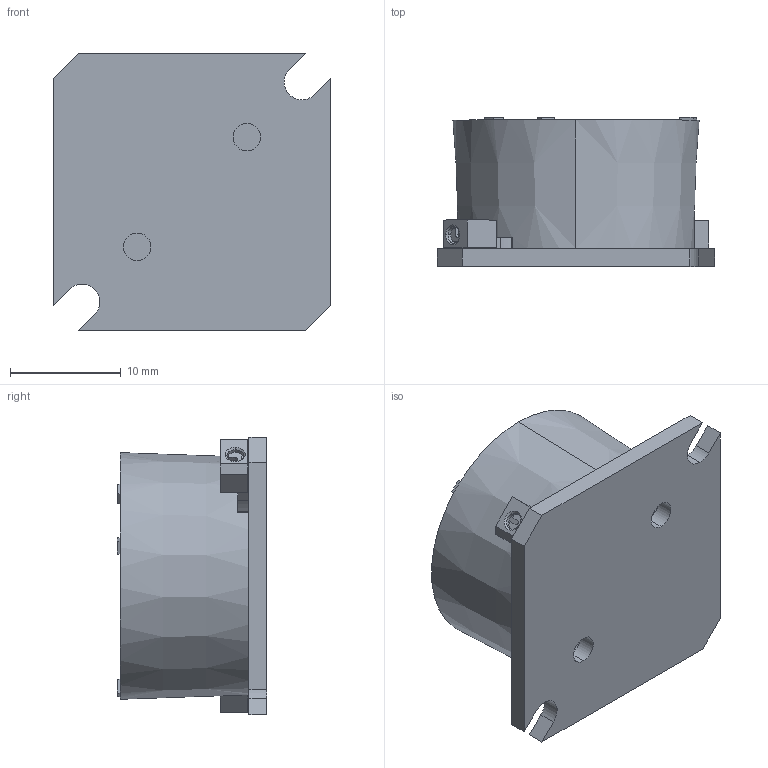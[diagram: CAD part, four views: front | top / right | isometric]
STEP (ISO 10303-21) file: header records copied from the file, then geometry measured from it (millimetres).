
FILE_DESCRIPTION (( 'STEP AP214' ), '1' );
FILE_NAME ('SW-12-frean FLP.STEP', '2023-11-15T04:14:58', ( '' ), ( '' ), 'SwSTEP 2.0', 'SolidWorks 2021', '' );
FILE_SCHEMA (( 'AUTOMOTIVE_DESIGN' ));
Length unit declared in the file: millimetre
Products named in the file (1): SW-12-frean FLP
Bounding box: 25 x 13.45 x 25 mm (x, y, z)
Volume: 3892.2 mm3; surface area: 4690.8 mm2
Topology: 8 solids, 8 shells, 706 faces, 1860 edges, 1211 vertices
Faces by surface type: plane 450, cylinder 123, bspline 87, torus 26, cone 14, sphere 6
Entity records: 28658 total; most frequent: CARTESIAN_POINT 8261, ORIENTED_EDGE 3698, DIRECTION 3243, EDGE_CURVE 1849, LINE 1331, VECTOR 1331, VERTEX_POINT 1210, AXIS2_PLACEMENT_3D 956
